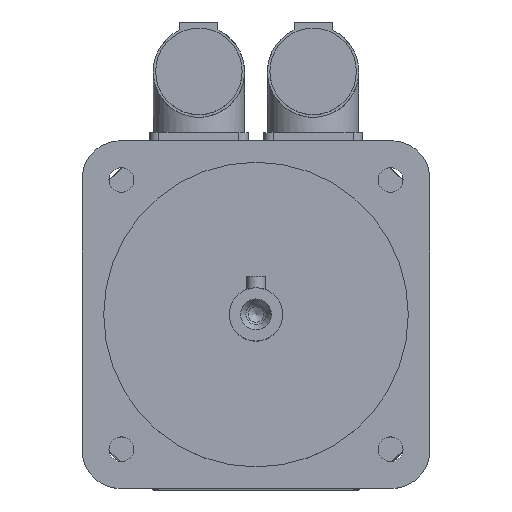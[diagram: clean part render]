
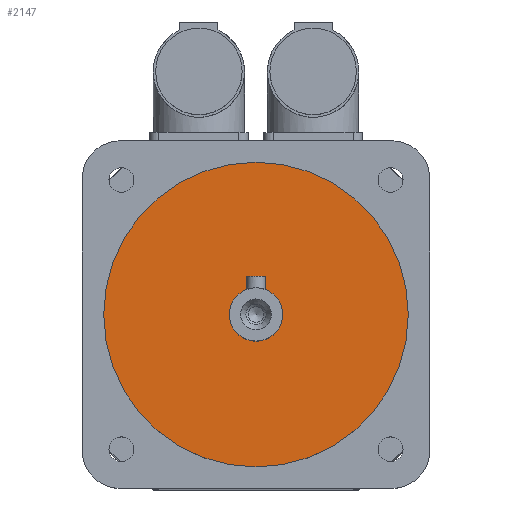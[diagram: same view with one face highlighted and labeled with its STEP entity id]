
A CAD part, top view. The second image highlights one B-rep face of the part: STEP entity #2147.
In plain terms, the highlighted planar face has unit normal (0, 0, 1).
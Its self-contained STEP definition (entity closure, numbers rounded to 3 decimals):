
#364=PLANE('',#2300);
#497=FACE_BOUND('',#679,.T.);
#533=FACE_OUTER_BOUND('',#678,.T.);
#678=EDGE_LOOP('',(#1534));
#679=EDGE_LOOP('',(#1535));
#830=CIRCLE('',#2299,7.);
#831=CIRCLE('',#2301,40.);
#978=VERTEX_POINT('',#3374);
#979=VERTEX_POINT('',#3377);
#1194=EDGE_CURVE('',#978,#978,#830,.T.);
#1195=EDGE_CURVE('',#979,#979,#831,.T.);
#1534=ORIENTED_EDGE('',*,*,#1195,.F.);
#1535=ORIENTED_EDGE('',*,*,#1194,.T.);
#2147=ADVANCED_FACE('',(#533,#497),#364,.T.);
#2299=AXIS2_PLACEMENT_3D('',#3375,#2624,#2625);
#2300=AXIS2_PLACEMENT_3D('',#3376,#2626,#2627);
#2301=AXIS2_PLACEMENT_3D('',#3378,#2628,#2629);
#2624=DIRECTION('center_axis',(0.,0.,-1.));
#2625=DIRECTION('ref_axis',(1.,0.,0.));
#2626=DIRECTION('center_axis',(0.,0.,1.));
#2627=DIRECTION('ref_axis',(1.,0.,0.));
#2628=DIRECTION('center_axis',(0.,0.,-1.));
#2629=DIRECTION('ref_axis',(1.,0.,0.));
#3374=CARTESIAN_POINT('',(0.,7.,201.));
#3375=CARTESIAN_POINT('Origin',(0.,0.,201.));
#3376=CARTESIAN_POINT('Origin',(0.,40.,201.));
#3377=CARTESIAN_POINT('',(0.,40.,201.));
#3378=CARTESIAN_POINT('Origin',(0.,0.,201.));
